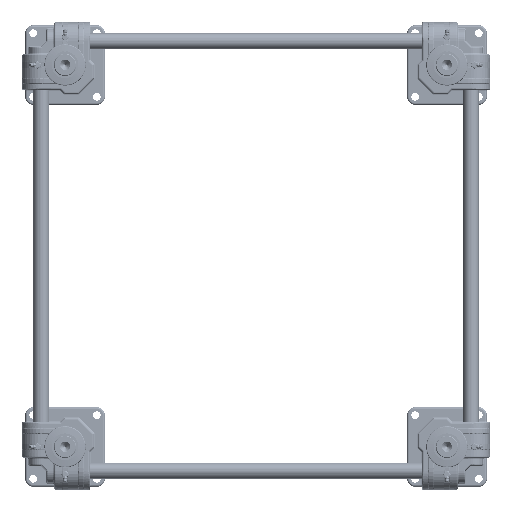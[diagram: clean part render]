
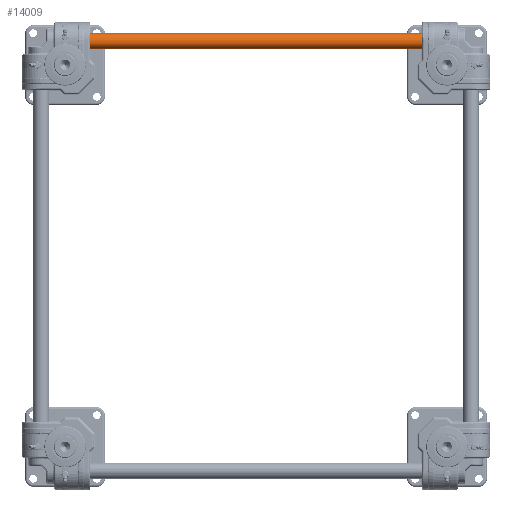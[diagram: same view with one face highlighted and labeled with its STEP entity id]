
A CAD part, top view. The second image highlights one B-rep face of the part: STEP entity #14009.
In plain terms, the highlighted cylindrical face has radius 12.5 mm (diameter 25 mm), a full revolution.
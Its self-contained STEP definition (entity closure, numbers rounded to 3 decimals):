
#14009=ADVANCED_FACE('',(#34772,#34773),#34774,.T.);
#34772=FACE_OUTER_BOUND('',#69622,.T.);
#34773=FACE_OUTER_BOUND('',#69623,.T.);
#34774=CYLINDRICAL_SURFACE('',#69624,12.5);
#69622=EDGE_LOOP('',(#152511));
#69623=EDGE_LOOP('',(#152512));
#69624=AXIS2_PLACEMENT_3D('',#152513,#152514,#152515);
#152511=ORIENTED_EDGE('',*,*,#179256,.T.);
#152512=ORIENTED_EDGE('',*,*,#179253,.T.);
#152513=CARTESIAN_POINT('',(0.0,0.0,642.0));
#152514=DIRECTION('',(0.0,0.0,-1.0));
#152515=DIRECTION('',(-1.0,0.0,0.0));
#179253=EDGE_CURVE('',#223547,#223547,#223548,.F.);
#179256=EDGE_CURVE('',#223553,#223553,#223554,.T.);
#223547=VERTEX_POINT('',#307631);
#223548=CIRCLE('',#307632,12.5);
#223553=VERTEX_POINT('',#307637);
#223554=CIRCLE('',#307638,12.5);
#307631=CARTESIAN_POINT('',(12.5,0.0,641.0));
#307632=AXIS2_PLACEMENT_3D('',#338214,#338215,#338216);
#307637=CARTESIAN_POINT('',(12.5,0.0,1.0));
#307638=AXIS2_PLACEMENT_3D('',#338223,#338224,#338225);
#338214=CARTESIAN_POINT('',(0.0,0.0,641.0));
#338215=DIRECTION('',(0.0,0.0,1.0));
#338216=DIRECTION('',(1.0,0.0,0.0));
#338223=CARTESIAN_POINT('',(0.0,0.0,1.0));
#338224=DIRECTION('',(0.0,0.0,1.0));
#338225=DIRECTION('',(1.0,0.0,0.0));
